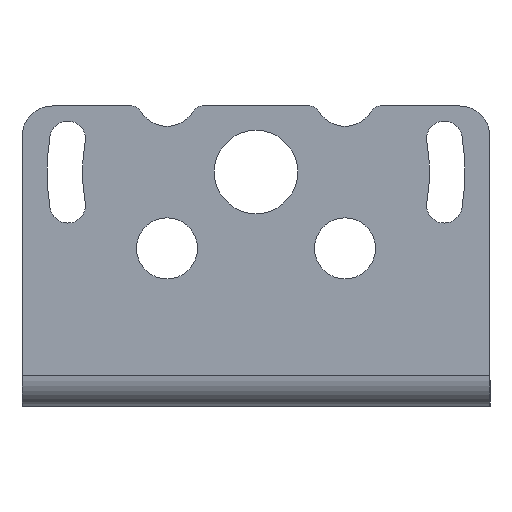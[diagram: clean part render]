
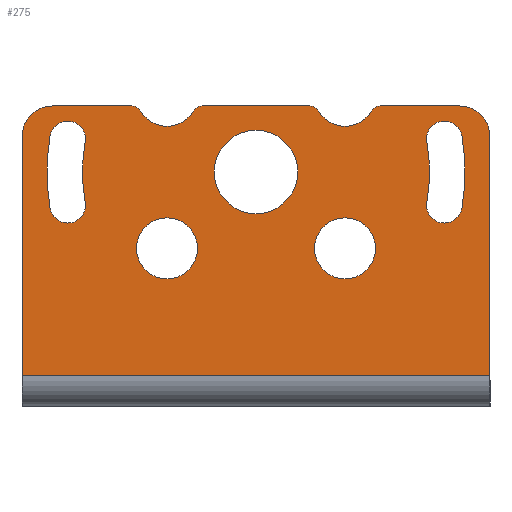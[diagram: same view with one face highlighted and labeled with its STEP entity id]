
A CAD part, left-side view. The second image highlights one B-rep face of the part: STEP entity #275.
In plain terms, the highlighted planar face has unit normal (-1, 0, 0).
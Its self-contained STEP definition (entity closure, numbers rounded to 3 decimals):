
#163=FACE_BOUND('',#406,.T.);
#164=FACE_BOUND('',#407,.T.);
#165=FACE_BOUND('',#408,.T.);
#166=FACE_BOUND('',#409,.T.);
#167=FACE_BOUND('',#410,.T.);
#168=FACE_BOUND('',#411,.T.);
#244=CIRCLE('',#1257,3.);
#245=CIRCLE('',#1258,1.);
#246=CIRCLE('',#1259,3.);
#247=CIRCLE('',#1260,3.);
#248=CIRCLE('',#1261,1.);
#249=CIRCLE('',#1262,3.);
#250=CIRCLE('',#1263,1.);
#251=CIRCLE('',#1264,1.);
#252=CIRCLE('',#1265,3.);
#253=CIRCLE('',#1266,3.);
#254=CIRCLE('',#1267,4.1);
#255=CIRCLE('',#1268,1.75);
#256=CIRCLE('',#1269,20.55);
#257=CIRCLE('',#1270,1.75);
#258=CIRCLE('',#1271,17.05);
#259=CIRCLE('',#1272,1.75);
#260=CIRCLE('',#1273,17.05);
#261=CIRCLE('',#1274,1.75);
#262=CIRCLE('',#1275,20.55);
#275=ADVANCED_FACE('',(#163,#164,#165,#166,#167,#168),#329,.F.);
#329=PLANE('',#1276);
#406=EDGE_LOOP('',(#578,#579,#580,#581,#582,#583,#584,#585,#586,#587,#588,
#589,#590,#591));
#407=EDGE_LOOP('',(#592));
#408=EDGE_LOOP('',(#593));
#409=EDGE_LOOP('',(#594));
#410=EDGE_LOOP('',(#595,#596,#597,#598));
#411=EDGE_LOOP('',(#599,#600,#601,#602));
#578=ORIENTED_EDGE('',*,*,#986,.T.);
#579=ORIENTED_EDGE('',*,*,#987,.T.);
#580=ORIENTED_EDGE('',*,*,#891,.T.);
#581=ORIENTED_EDGE('',*,*,#988,.T.);
#582=ORIENTED_EDGE('',*,*,#989,.T.);
#583=ORIENTED_EDGE('',*,*,#990,.T.);
#584=ORIENTED_EDGE('',*,*,#929,.F.);
#585=ORIENTED_EDGE('',*,*,#991,.T.);
#586=ORIENTED_EDGE('',*,*,#889,.T.);
#587=ORIENTED_EDGE('',*,*,#992,.T.);
#588=ORIENTED_EDGE('',*,*,#993,.F.);
#589=ORIENTED_EDGE('',*,*,#994,.T.);
#590=ORIENTED_EDGE('',*,*,#885,.T.);
#591=ORIENTED_EDGE('',*,*,#995,.T.);
#592=ORIENTED_EDGE('',*,*,#996,.T.);
#593=ORIENTED_EDGE('',*,*,#997,.T.);
#594=ORIENTED_EDGE('',*,*,#998,.F.);
#595=ORIENTED_EDGE('',*,*,#999,.F.);
#596=ORIENTED_EDGE('',*,*,#1000,.F.);
#597=ORIENTED_EDGE('',*,*,#1001,.F.);
#598=ORIENTED_EDGE('',*,*,#1002,.F.);
#599=ORIENTED_EDGE('',*,*,#1003,.F.);
#600=ORIENTED_EDGE('',*,*,#1004,.F.);
#601=ORIENTED_EDGE('',*,*,#1005,.F.);
#602=ORIENTED_EDGE('',*,*,#1006,.F.);
#777=VERTEX_POINT('',#1683);
#778=VERTEX_POINT('',#1685);
#781=VERTEX_POINT('',#1692);
#782=VERTEX_POINT('',#1694);
#783=VERTEX_POINT('',#1698);
#784=VERTEX_POINT('',#1699);
#820=VERTEX_POINT('',#1774);
#821=VERTEX_POINT('',#1776);
#866=VERTEX_POINT('',#1884);
#867=VERTEX_POINT('',#1885);
#868=VERTEX_POINT('',#1888);
#869=VERTEX_POINT('',#1890);
#870=VERTEX_POINT('',#1894);
#871=VERTEX_POINT('',#1896);
#872=VERTEX_POINT('',#1900);
#873=VERTEX_POINT('',#1902);
#874=VERTEX_POINT('',#1904);
#875=VERTEX_POINT('',#1906);
#876=VERTEX_POINT('',#1907);
#877=VERTEX_POINT('',#1909);
#878=VERTEX_POINT('',#1911);
#879=VERTEX_POINT('',#1914);
#880=VERTEX_POINT('',#1915);
#881=VERTEX_POINT('',#1917);
#882=VERTEX_POINT('',#1919);
#885=EDGE_CURVE('',#778,#777,#1041,.T.);
#889=EDGE_CURVE('',#782,#781,#1045,.T.);
#891=EDGE_CURVE('',#783,#784,#1047,.T.);
#929=EDGE_CURVE('',#820,#821,#1063,.T.);
#986=EDGE_CURVE('',#866,#867,#244,.T.);
#987=EDGE_CURVE('',#867,#783,#245,.T.);
#988=EDGE_CURVE('',#784,#868,#246,.T.);
#989=EDGE_CURVE('',#868,#869,#1079,.T.);
#990=EDGE_CURVE('',#869,#821,#1080,.T.);
#991=EDGE_CURVE('',#820,#782,#247,.T.);
#992=EDGE_CURVE('',#781,#870,#248,.T.);
#993=EDGE_CURVE('',#871,#870,#249,.T.);
#994=EDGE_CURVE('',#871,#778,#250,.T.);
#995=EDGE_CURVE('',#777,#866,#251,.T.);
#996=EDGE_CURVE('',#872,#872,#252,.T.);
#997=EDGE_CURVE('',#873,#873,#253,.T.);
#998=EDGE_CURVE('',#874,#874,#254,.T.);
#999=EDGE_CURVE('',#875,#876,#255,.T.);
#1000=EDGE_CURVE('',#877,#875,#256,.T.);
#1001=EDGE_CURVE('',#878,#877,#257,.T.);
#1002=EDGE_CURVE('',#876,#878,#258,.T.);
#1003=EDGE_CURVE('',#879,#880,#259,.T.);
#1004=EDGE_CURVE('',#881,#879,#260,.T.);
#1005=EDGE_CURVE('',#882,#881,#261,.T.);
#1006=EDGE_CURVE('',#880,#882,#262,.T.);
#1041=LINE('',#1684,#1113);
#1045=LINE('',#1693,#1117);
#1047=LINE('',#1697,#1119);
#1063=LINE('',#1775,#1135);
#1079=LINE('',#1889,#1151);
#1080=LINE('',#1891,#1152);
#1113=VECTOR('',#1328,1.);
#1117=VECTOR('',#1334,1.);
#1119=VECTOR('',#1338,1.);
#1135=VECTOR('',#1402,1.);
#1151=VECTOR('',#1518,1.);
#1152=VECTOR('',#1519,1.);
#1257=AXIS2_PLACEMENT_3D('',#1883,#1512,#1513);
#1258=AXIS2_PLACEMENT_3D('',#1886,#1514,#1515);
#1259=AXIS2_PLACEMENT_3D('',#1887,#1516,#1517);
#1260=AXIS2_PLACEMENT_3D('',#1892,#1520,#1521);
#1261=AXIS2_PLACEMENT_3D('',#1893,#1522,#1523);
#1262=AXIS2_PLACEMENT_3D('',#1895,#1524,#1525);
#1263=AXIS2_PLACEMENT_3D('',#1897,#1526,#1527);
#1264=AXIS2_PLACEMENT_3D('',#1898,#1528,#1529);
#1265=AXIS2_PLACEMENT_3D('',#1899,#1530,#1531);
#1266=AXIS2_PLACEMENT_3D('',#1901,#1532,#1533);
#1267=AXIS2_PLACEMENT_3D('',#1903,#1534,#1535);
#1268=AXIS2_PLACEMENT_3D('',#1905,#1536,#1537);
#1269=AXIS2_PLACEMENT_3D('',#1908,#1538,#1539);
#1270=AXIS2_PLACEMENT_3D('',#1910,#1540,#1541);
#1271=AXIS2_PLACEMENT_3D('',#1912,#1542,#1543);
#1272=AXIS2_PLACEMENT_3D('',#1913,#1544,#1545);
#1273=AXIS2_PLACEMENT_3D('',#1916,#1546,#1547);
#1274=AXIS2_PLACEMENT_3D('',#1918,#1548,#1549);
#1275=AXIS2_PLACEMENT_3D('',#1920,#1550,#1551);
#1276=AXIS2_PLACEMENT_3D('',#1921,#1552,#1553);
#1328=DIRECTION('',(0.,1.,0.));
#1334=DIRECTION('',(0.,1.,0.));
#1338=DIRECTION('',(0.,1.,0.));
#1402=DIRECTION('',(0.,0.,-1.));
#1512=DIRECTION('',(1.,0.,0.));
#1513=DIRECTION('',(0.,1.,0.));
#1514=DIRECTION('',(-1.,0.,0.));
#1515=DIRECTION('',(0.,1.,0.));
#1516=DIRECTION('',(-1.,0.,0.));
#1517=DIRECTION('',(0.,1.,0.));
#1518=DIRECTION('',(0.,0.,-1.));
#1519=DIRECTION('',(0.,-1.,0.));
#1520=DIRECTION('',(-1.,0.,0.));
#1521=DIRECTION('',(0.,1.,0.));
#1522=DIRECTION('',(-1.,0.,0.));
#1523=DIRECTION('',(0.,1.,0.));
#1524=DIRECTION('',(-1.,0.,0.));
#1525=DIRECTION('',(0.,1.,0.));
#1526=DIRECTION('',(-1.,0.,0.));
#1527=DIRECTION('',(0.,1.,0.));
#1528=DIRECTION('',(-1.,0.,0.));
#1529=DIRECTION('',(0.,1.,0.));
#1530=DIRECTION('',(1.,0.,0.));
#1531=DIRECTION('',(0.,1.,0.));
#1532=DIRECTION('',(1.,0.,0.));
#1533=DIRECTION('',(0.,1.,0.));
#1534=DIRECTION('',(-1.,0.,0.));
#1535=DIRECTION('',(0.,1.,0.));
#1536=DIRECTION('',(-1.,0.,0.));
#1537=DIRECTION('',(0.,1.,0.));
#1538=DIRECTION('',(-1.,0.,0.));
#1539=DIRECTION('',(0.,1.,0.));
#1540=DIRECTION('',(-1.,0.,0.));
#1541=DIRECTION('',(0.,1.,0.));
#1542=DIRECTION('',(1.,0.,0.));
#1543=DIRECTION('',(0.,1.,0.));
#1544=DIRECTION('',(-1.,0.,0.));
#1545=DIRECTION('',(0.,1.,0.));
#1546=DIRECTION('',(1.,0.,0.));
#1547=DIRECTION('',(0.,1.,0.));
#1548=DIRECTION('',(-1.,0.,0.));
#1549=DIRECTION('',(0.,1.,0.));
#1550=DIRECTION('',(-1.,0.,0.));
#1551=DIRECTION('',(0.,1.,0.));
#1552=DIRECTION('',(1.,0.,0.));
#1553=DIRECTION('',(0.,1.,0.));
#1683=CARTESIAN_POINT('',(-40.,5.286,29.5));
#1684=CARTESIAN_POINT('',(-40.,-23.,29.5));
#1685=CARTESIAN_POINT('',(-40.,-5.286,29.5));
#1692=CARTESIAN_POINT('',(-40.,-12.214,29.5));
#1693=CARTESIAN_POINT('',(-40.,-23.,29.5));
#1694=CARTESIAN_POINT('',(-40.,-20.,29.5));
#1697=CARTESIAN_POINT('',(-40.,-23.,29.5));
#1698=CARTESIAN_POINT('',(-40.,12.214,29.5));
#1699=CARTESIAN_POINT('',(-40.,20.,29.5));
#1774=CARTESIAN_POINT('',(-40.,-23.,26.5));
#1775=CARTESIAN_POINT('',(-40.,-23.,2.5));
#1776=CARTESIAN_POINT('',(-40.,-23.,3.));
#1883=CARTESIAN_POINT('',(-40.,8.75,30.5));
#1884=CARTESIAN_POINT('',(-40.,6.152,29.));
#1885=CARTESIAN_POINT('',(-40.,11.348,29.));
#1886=CARTESIAN_POINT('',(-40.,12.214,28.5));
#1887=CARTESIAN_POINT('',(-40.,20.,26.5));
#1888=CARTESIAN_POINT('',(-40.,23.,26.5));
#1889=CARTESIAN_POINT('',(-40.,23.,2.5));
#1890=CARTESIAN_POINT('',(-40.,23.,3.));
#1891=CARTESIAN_POINT('',(-40.,23.,3.));
#1892=CARTESIAN_POINT('',(-40.,-20.,26.5));
#1893=CARTESIAN_POINT('',(-40.,-12.214,28.5));
#1894=CARTESIAN_POINT('',(-40.,-11.348,29.));
#1895=CARTESIAN_POINT('',(-40.,-8.75,30.5));
#1896=CARTESIAN_POINT('',(-40.,-6.152,29.));
#1897=CARTESIAN_POINT('',(-40.,-5.286,28.5));
#1898=CARTESIAN_POINT('',(-40.,5.286,28.5));
#1899=CARTESIAN_POINT('',(-40.,-8.75,15.5));
#1900=CARTESIAN_POINT('',(-40.,-5.75,15.5));
#1901=CARTESIAN_POINT('',(-40.,8.75,15.5));
#1902=CARTESIAN_POINT('',(-40.,11.75,15.5));
#1903=CARTESIAN_POINT('',(-40.,0.,23.));
#1904=CARTESIAN_POINT('',(-40.,4.1,23.));
#1905=CARTESIAN_POINT('',(-40.,-18.514,26.265));
#1906=CARTESIAN_POINT('',(-40.,-20.238,26.568));
#1907=CARTESIAN_POINT('',(-40.,-16.791,25.961));
#1908=CARTESIAN_POINT('',(-40.,0.,23.));
#1909=CARTESIAN_POINT('',(-40.,-20.238,19.432));
#1910=CARTESIAN_POINT('',(-40.,-18.514,19.735));
#1911=CARTESIAN_POINT('',(-40.,-16.791,20.039));
#1912=CARTESIAN_POINT('',(-40.,0.,23.));
#1913=CARTESIAN_POINT('',(-40.,18.514,26.265));
#1914=CARTESIAN_POINT('',(-40.,16.791,25.961));
#1915=CARTESIAN_POINT('',(-40.,20.238,26.568));
#1916=CARTESIAN_POINT('',(-40.,0.,23.));
#1917=CARTESIAN_POINT('',(-40.,16.791,20.039));
#1918=CARTESIAN_POINT('',(-40.,18.514,19.735));
#1919=CARTESIAN_POINT('',(-40.,20.238,19.432));
#1920=CARTESIAN_POINT('',(-40.,0.,23.));
#1921=CARTESIAN_POINT('',(-40.,23.,2.5));
